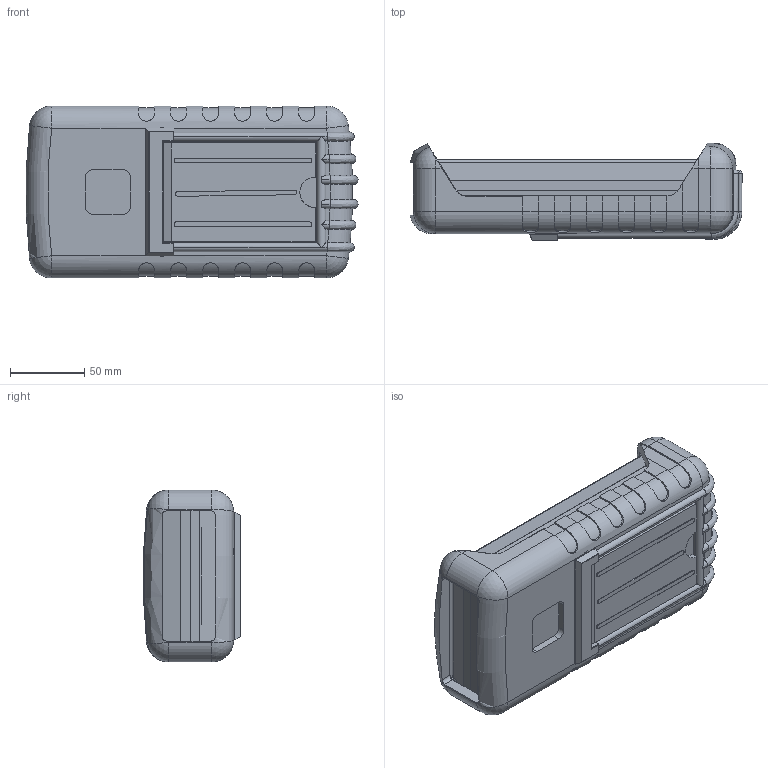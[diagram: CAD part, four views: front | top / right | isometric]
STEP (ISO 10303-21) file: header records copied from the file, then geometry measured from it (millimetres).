
FILE_DESCRIPTION (( 'STEP AP214' ), '1' );
FILE_NAME ('100-42-6A-E-R.STEP', '2020-11-20T00:47:33', ( 'Rudy' ), ( '' ), 'SwSTEP 2.0', 'SolidWorks 2016', '' );
FILE_SCHEMA (( 'AUTOMOTIVE_DESIGN' ));
Length unit declared in the file: inch
Products named in the file (8): 100 RBE; 100 RBE Stand; 100-06 EXPANDER; 6AAdoor; 100-04-recessed Top; 100-02 BOT-6AA; 100-42-6A-E-R
Assembly tree (7 placements, depth 3):
  100-42-6A-E-R
    100-02 BOT-6AA
    100-04-recessed Top
    6AAdoor
    100-06 EXPANDER
    100 RBE
      100 RBE
      100 RBE Stand
Bounding box: 223.76 x 65.38 x 115.87 mm (x, y, z)
Volume: 408546.9 mm3; surface area: 275315.6 mm2
Topology: 6 solids, 6 shells, 1628 faces, 4418 edges, 2798 vertices
Faces by surface type: plane 992, cylinder 477, bspline 67, cone 42, torus 38, sphere 12
Entity records: 54213 total; most frequent: CARTESIAN_POINT 13997, ORIENTED_EDGE 8750, DIRECTION 7771, EDGE_CURVE 4375, VECTOR 3091, LINE 3091, VERTEX_POINT 2790, AXIS2_PLACEMENT_3D 2340
